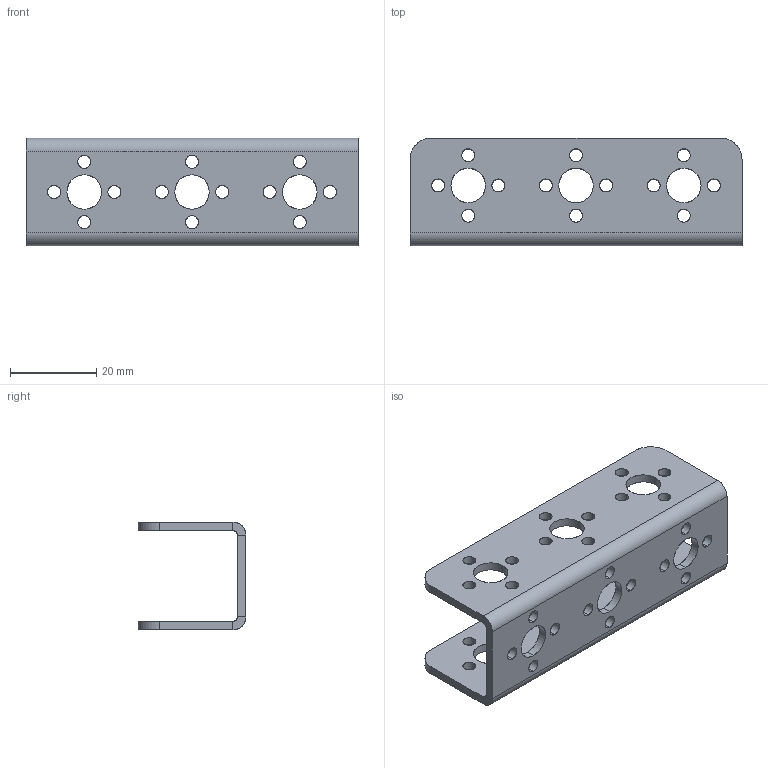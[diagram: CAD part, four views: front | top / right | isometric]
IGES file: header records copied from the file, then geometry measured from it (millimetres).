
Start section: SolidWorks IGES file using analytic representation for surfaces
Global section: file name: D:\Autres\Projets\CAO\Servo Brackets\Channel Bracket.IGS; native system: SolidWorks 2015; preprocessor: SolidWorks 2015; author: Hendricks; date: 150615.050942; units: millimetre
Bounding box: 77 x 25 x 25 mm (x, y, z)
Surface area: 10911.9 mm2 (no closed solid volume)
Topology: 0 solids, 0 shells, 116 faces, 3464 edges, 3464 vertices
Faces by surface type: revolution 98, bspline 18
